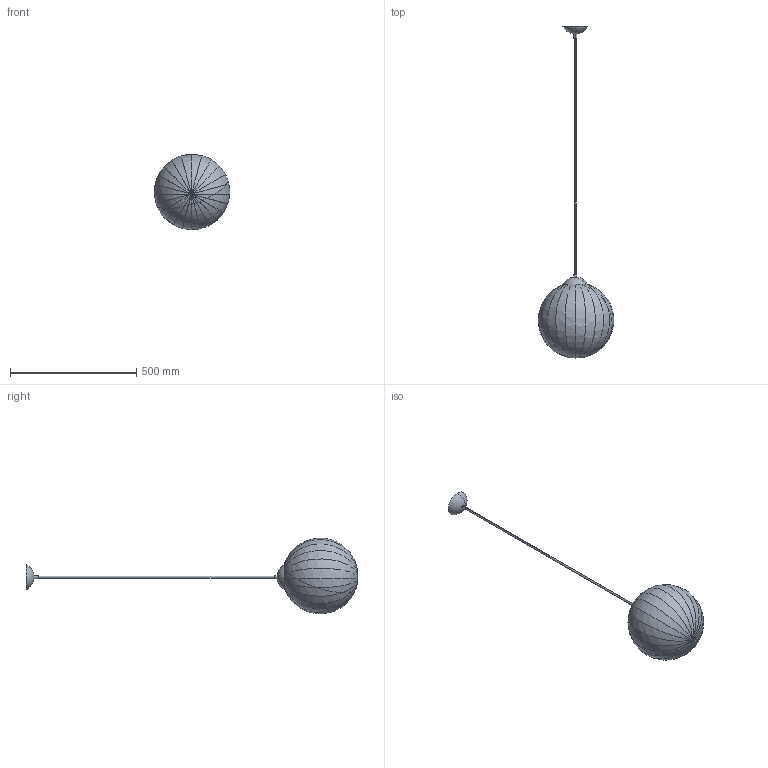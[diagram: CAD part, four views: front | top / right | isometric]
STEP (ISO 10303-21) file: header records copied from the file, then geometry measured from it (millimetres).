
FILE_DESCRIPTION(('STEP AP214'),'1');
FILE_NAME('Arran.stp','2018-12-19T02:19:06',(' '),(' '),'Spatial InterOp 3D',' ',' ');
FILE_SCHEMA(('AUTOMOTIVE_DESIGN { 1 0 10303 214 1 1 1 1 }'));
Length unit declared in the file: metre
Products named in the file (1): Bryła
Bounding box: 299.08 x 1316.51 x 299.53 mm (x, y, z)
Volume: 14281625.4 mm3; surface area: 2057456.7 mm2
Topology: 27 solids, 31 shells, 124 faces, 218 edges, 142 vertices
Faces by surface type: sphere 55, plane 53, cylinder 12, torus 4
Entity records: 4418 total; most frequent: DIRECTION 691, CARTESIAN_POINT 504, ORIENTED_EDGE 403, AXIS2_PLACEMENT_3D 327, EDGE_CURVE 207, CIRCLE 171, STYLED_ITEM 157, PRESENTATION_STYLE_ASSIGNMENT 157
